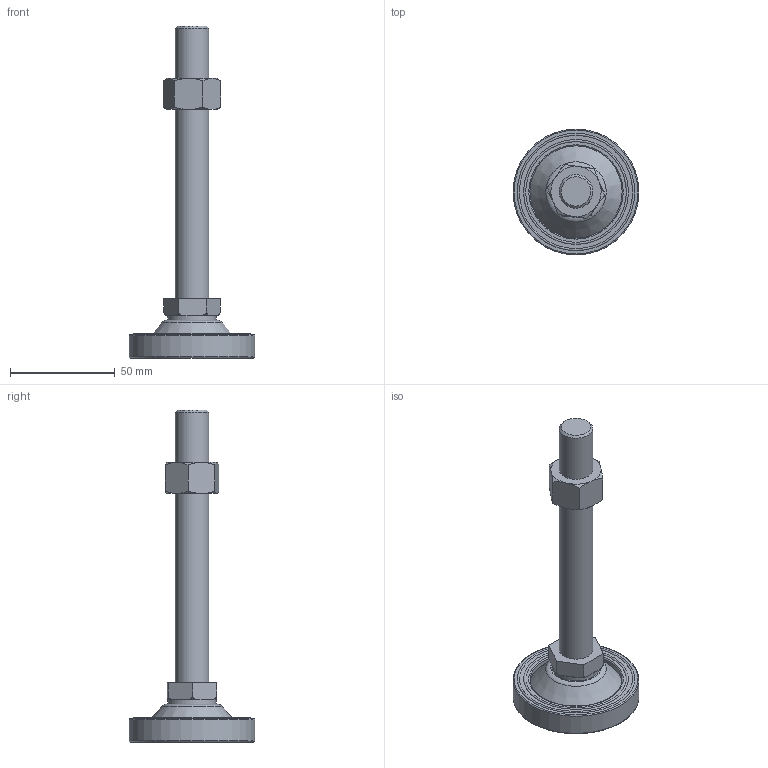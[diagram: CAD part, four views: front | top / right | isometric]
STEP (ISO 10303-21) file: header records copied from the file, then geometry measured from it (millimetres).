
FILE_DESCRIPTION((' '),'2;1');
FILE_NAME('Y:\00. A standard brand\06. 3D Modeling\외부전송용_STEP\LEVELLING FOOT(STEP)\A-PLR SERIES STEP\A-PLR-16-130.stp.stp','2011-11-22T18:42:15',(' '),(' '),' ','ACIS',' ');
FILE_SCHEMA(('CONFIG_CONTROL_DESIGN'));
Length unit declared in the file: millimetre
Products named in the file (1): Y:\00. A standard brand\06. 3D Modeling\외부전송용_STEP\LEVELLING FOOT(STEP)\A-PLR SERIES STEP\A-PLR-16-130.stp.stp
Bounding box: 60 x 60 x 158.31 mm (x, y, z)
Volume: 62858.3 mm3; surface area: 23193.4 mm2
Topology: 3 solids, 4 shells, 114 faces, 253 edges, 157 vertices
Faces by surface type: plane 55, cylinder 20, cone 17, torus 15, bspline 7
Full cylindrical faces by diameter (mm): 8 x1, 12 x2, 16 x3, 19.27 x1, 23 x1, 31 x1, 44 x2, 60 x1
Entity records: 3378 total; most frequent: CARTESIAN_POINT 976, DIRECTION 476, ORIENTED_EDGE 424, EDGE_CURVE 212, AXIS2_PLACEMENT_3D 192, EDGE_LOOP 160, VERTEX_POINT 149, FACE_OUTER_BOUND 114
